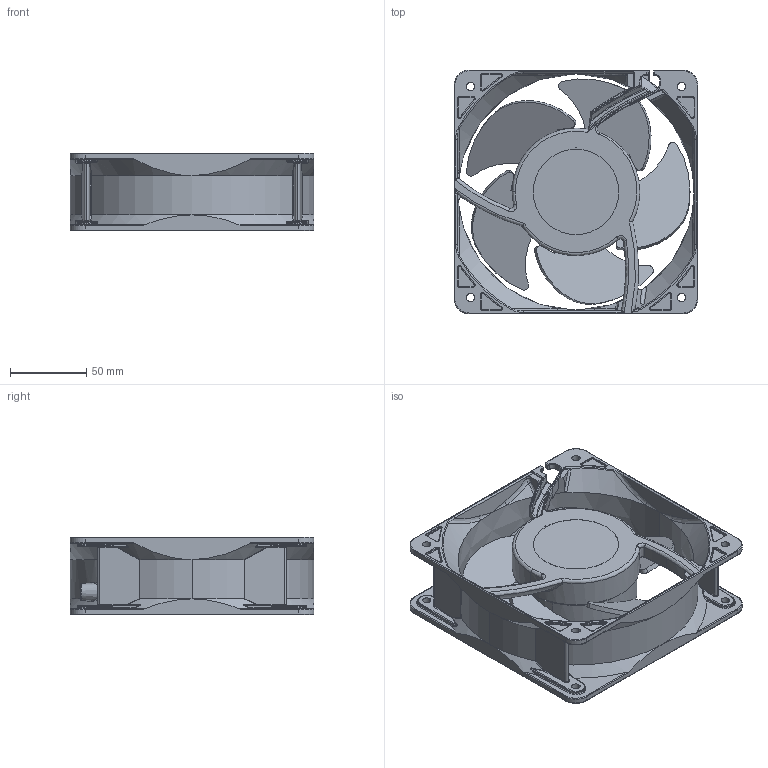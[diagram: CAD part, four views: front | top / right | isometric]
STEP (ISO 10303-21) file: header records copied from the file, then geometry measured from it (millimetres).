
FILE_DESCRIPTION (( 'STEP AP203' ), '1' );
FILE_NAME ('16051AD_RIBLESS.STEP', '2022-11-30T08:22:43', ( '' ), ( '' ), 'SwSTEP 2.0', 'SolidWorks 2019', '' );
FILE_SCHEMA (( 'CONFIG_CONTROL_DESIGN' ));
Length unit declared in the file: millimetre
Products named in the file (1): 16051AD_RIBLESS
Bounding box: 160 x 160 x 51 mm (x, y, z)
Volume: 387930 mm3; surface area: 126087.7 mm2
Topology: 1 solids, 1 shells, 1167 faces, 2858 edges, 1665 vertices
Faces by surface type: bspline 517, cylinder 389, plane 212, cone 45, torus 4
Entity records: 55075 total; most frequent: CARTESIAN_POINT 31878, ORIENTED_EDGE 5634, DIRECTION 3777, EDGE_CURVE 2817, VERTEX_POINT 1665, AXIS2_PLACEMENT_3D 1467, EDGE_LOOP 1202, ADVANCED_FACE 1167
